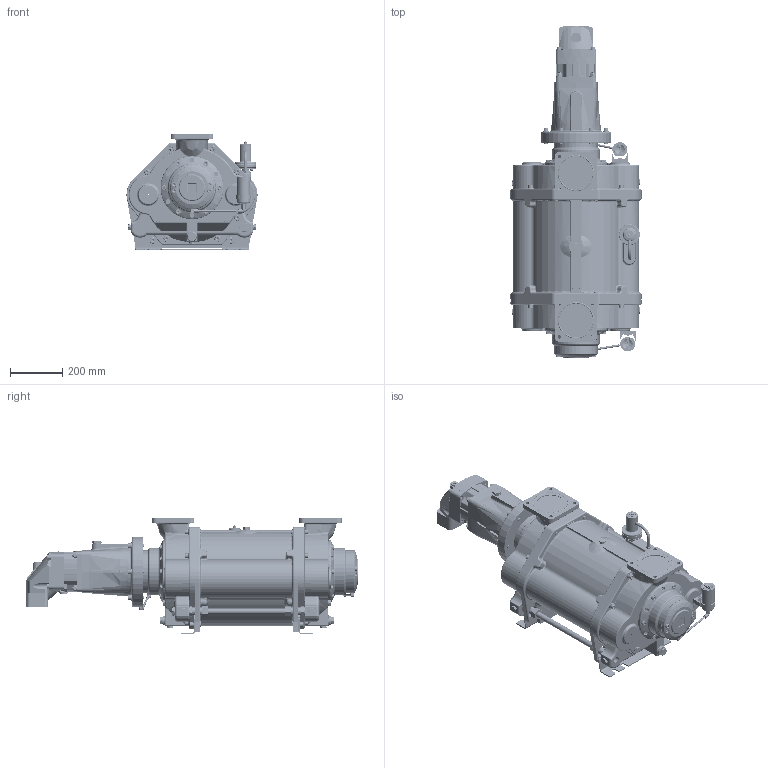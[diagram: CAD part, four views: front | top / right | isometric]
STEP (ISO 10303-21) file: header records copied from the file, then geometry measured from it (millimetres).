
FILE_DESCRIPTION(/* description */ (''),/* implementation_level */ '2;1');
FILE_NAME(/* name */ '1700152B.stp',/* time_stamp */ '2025-09-24T12:32:35+02:00',/* author */ ('JJ'),/* organization */ (''),/* preprocessor_version */ 'ST-DEVELOPER v20',/* originating_system */ 'Autodesk Inventor 2025',/* authorisation */ '');
FILE_SCHEMA (('AUTOMOTIVE_DESIGN { 1 0 10303 214 3 1 1 }'));
Length unit declared in the file: millimetre
Products named in the file (52): 1700152; 1700038 Ready for adaptor; 1634666; 1634667; 1634668; 1634130; 1634131; 1634670; 1634134; 910200105; 910100125; 910300428; 921000047; 922100045; 922100339; 1634669; 925000651; 910300012; 925000862; 927000134-TM2500; 915000217; 922200269; 915000021; 910300074; 915000050; 1654102; 1615072; 910300486; 910300509; 915000232; 910300487; 915000225; 915000225-part1; 915000225-part2; 910100191; 944600240; 944600173; 944600239; Slange 3 automatsmøring TM1700; 944000088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
Assembly tree (86 placements, depth 3):
  1700152
    1700038 Ready for adaptor
    1634666
      1634667
      1634668
      1634130
      1634131
      1634670
      1634134
      910200105
      910100125
      910300428
      921000047
      922100045
      922100339
      1634669
      925000651
      910300012  x4
    925000862
    927000134-TM2500
    915000232  x2
    910300487  x2
    910100191  x2
    915000225  x2
      915000225-part1
      915000225-part2
    915000217
    944600240  x2
    944600173  x2
    944600239  x2
    922200269
    910300074  x2
    915000050  x2
    915000021
    1654102
    1615072
    910300486  x6
    910300509  x4
    Slange 3 automatsmøring TM1700
    910100013  x10
    944000088
      944000088_part1
      944000088_part2
      944000088_part3
    910100198  x4
    910200013  x4
    1634826
      1634811
      922000266
    932400151
    932400153
    932400157
Bounding box: 502.5 x 1273.02 x 447.08 mm (x, y, z)
Volume: 93867425.6 mm3; surface area: 3137547.1 mm2
Topology: 83 solids, 84 shells, 5203 faces, 13065 edges, 8372 vertices
Faces by surface type: plane 2067, cylinder 1453, bspline 896, cone 410, torus 310, sphere 67
Full cylindrical faces by diameter (mm): 1.5 x16, 3.2 x2, 3.3 x4, 3.5 x4, 4 x4, 4.134 x4, 4.917 x1, 4.92 x5, 5 x2, 5.3 x2, 6 x22, 6.1 x1, 6.4 x1, 6.5 x4, 6.647 x1, 8 x27, 8.4 x1, 8.5 x4, 8.57 x1, 8.92 x2, 9.2 x2, 9.7 x1, 9.8 x4, 10 x13, 10.106 x42, 10.11 x1, 11 x4, 11.445 x2, 12 x151, 13 x28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
Entity records: 185991 total; most frequent: CARTESIAN_POINT 80601, ORIENTED_EDGE 21984, DIRECTION 19709, EDGE_CURVE 10992, AXIS2_PLACEMENT_3D 7490, VERTEX_POINT 7063, EDGE_LOOP 5015, LINE 4729
